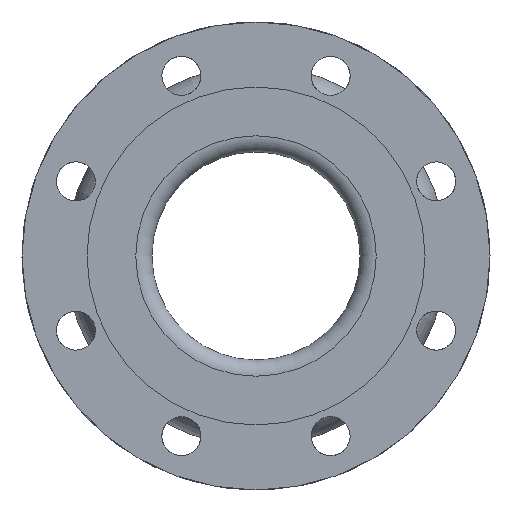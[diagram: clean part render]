
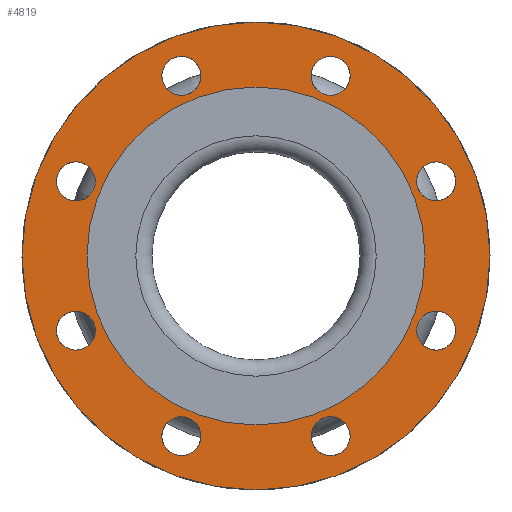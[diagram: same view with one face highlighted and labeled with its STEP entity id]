
A CAD part, left-side view. The second image highlights one B-rep face of the part: STEP entity #4819.
In plain terms, the highlighted planar face has unit normal (-1, 0, 0).
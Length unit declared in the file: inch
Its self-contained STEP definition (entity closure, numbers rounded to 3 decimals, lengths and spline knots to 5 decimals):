
#508=PLANE('',#5137);
#586=FACE_BOUND('',#1043,.T.);
#587=FACE_BOUND('',#1044,.T.);
#588=FACE_BOUND('',#1045,.T.);
#589=FACE_BOUND('',#1046,.T.);
#590=FACE_BOUND('',#1047,.T.);
#591=FACE_BOUND('',#1048,.T.);
#592=FACE_BOUND('',#1049,.T.);
#593=FACE_BOUND('',#1050,.T.);
#594=FACE_BOUND('',#1051,.T.);
#746=FACE_OUTER_BOUND('',#1042,.T.);
#1042=EDGE_LOOP('',(#3042));
#1043=EDGE_LOOP('',(#3043));
#1044=EDGE_LOOP('',(#3044));
#1045=EDGE_LOOP('',(#3045));
#1046=EDGE_LOOP('',(#3046));
#1047=EDGE_LOOP('',(#3047));
#1048=EDGE_LOOP('',(#3048));
#1049=EDGE_LOOP('',(#3049));
#1050=EDGE_LOOP('',(#3050));
#1051=EDGE_LOOP('',(#3051));
#1451=CIRCLE('',#5091,0.375);
#1453=CIRCLE('',#5094,0.375);
#1455=CIRCLE('',#5097,0.375);
#1457=CIRCLE('',#5100,0.375);
#1459=CIRCLE('',#5103,0.375);
#1461=CIRCLE('',#5106,0.375);
#1463=CIRCLE('',#5109,0.375);
#1465=CIRCLE('',#5112,0.375);
#1482=CIRCLE('',#5138,4.5);
#1483=CIRCLE('',#5139,3.25);
#1875=VERTEX_POINT('',#7431);
#1877=VERTEX_POINT('',#7436);
#1879=VERTEX_POINT('',#7441);
#1881=VERTEX_POINT('',#7446);
#1883=VERTEX_POINT('',#7451);
#1885=VERTEX_POINT('',#7456);
#1887=VERTEX_POINT('',#7461);
#1889=VERTEX_POINT('',#7466);
#1906=VERTEX_POINT('',#7509);
#1907=VERTEX_POINT('',#7511);
#2351=EDGE_CURVE('',#1875,#1875,#1451,.T.);
#2353=EDGE_CURVE('',#1877,#1877,#1453,.T.);
#2355=EDGE_CURVE('',#1879,#1879,#1455,.T.);
#2357=EDGE_CURVE('',#1881,#1881,#1457,.T.);
#2359=EDGE_CURVE('',#1883,#1883,#1459,.T.);
#2361=EDGE_CURVE('',#1885,#1885,#1461,.T.);
#2363=EDGE_CURVE('',#1887,#1887,#1463,.T.);
#2365=EDGE_CURVE('',#1889,#1889,#1465,.T.);
#2382=EDGE_CURVE('',#1906,#1906,#1482,.T.);
#2383=EDGE_CURVE('',#1907,#1907,#1483,.T.);
#3042=ORIENTED_EDGE('',*,*,#2382,.F.);
#3043=ORIENTED_EDGE('',*,*,#2351,.T.);
#3044=ORIENTED_EDGE('',*,*,#2353,.T.);
#3045=ORIENTED_EDGE('',*,*,#2355,.T.);
#3046=ORIENTED_EDGE('',*,*,#2357,.T.);
#3047=ORIENTED_EDGE('',*,*,#2359,.T.);
#3048=ORIENTED_EDGE('',*,*,#2361,.T.);
#3049=ORIENTED_EDGE('',*,*,#2363,.T.);
#3050=ORIENTED_EDGE('',*,*,#2365,.T.);
#3051=ORIENTED_EDGE('',*,*,#2383,.T.);
#4819=ADVANCED_FACE('',(#746,#586,#587,#588,#589,#590,#591,#592,#593,#594),
#508,.T.);
#5091=AXIS2_PLACEMENT_3D('',#7432,#5799,#5800);
#5094=AXIS2_PLACEMENT_3D('',#7437,#5805,#5806);
#5097=AXIS2_PLACEMENT_3D('',#7442,#5811,#5812);
#5100=AXIS2_PLACEMENT_3D('',#7447,#5817,#5818);
#5103=AXIS2_PLACEMENT_3D('',#7452,#5823,#5824);
#5106=AXIS2_PLACEMENT_3D('',#7457,#5829,#5830);
#5109=AXIS2_PLACEMENT_3D('',#7462,#5835,#5836);
#5112=AXIS2_PLACEMENT_3D('',#7467,#5841,#5842);
#5137=AXIS2_PLACEMENT_3D('',#7508,#5891,#5892);
#5138=AXIS2_PLACEMENT_3D('',#7510,#5893,#5894);
#5139=AXIS2_PLACEMENT_3D('',#7512,#5895,#5896);
#5799=DIRECTION('center_axis',(1.,0.,0.));
#5800=DIRECTION('ref_axis',(0.,-0.707,-0.707));
#5805=DIRECTION('center_axis',(1.,0.,0.));
#5806=DIRECTION('ref_axis',(0.,-1.,0.));
#5811=DIRECTION('center_axis',(1.,0.,0.));
#5812=DIRECTION('ref_axis',(0.,-0.707,0.707));
#5817=DIRECTION('center_axis',(1.,0.,0.));
#5818=DIRECTION('ref_axis',(0.,0.,1.));
#5823=DIRECTION('center_axis',(1.,0.,0.));
#5824=DIRECTION('ref_axis',(0.,0.707,0.707));
#5829=DIRECTION('center_axis',(1.,0.,0.));
#5830=DIRECTION('ref_axis',(0.,1.,0.));
#5835=DIRECTION('center_axis',(1.,0.,0.));
#5836=DIRECTION('ref_axis',(0.,0.707,-0.707));
#5841=DIRECTION('center_axis',(1.,0.,0.));
#5842=DIRECTION('ref_axis',(0.,0.,-1.));
#5891=DIRECTION('center_axis',(-1.,0.,0.));
#5892=DIRECTION('ref_axis',(0.,0.,1.));
#5893=DIRECTION('center_axis',(1.,0.,0.));
#5894=DIRECTION('ref_axis',(0.,0.,-1.));
#5895=DIRECTION('center_axis',(1.,0.,0.));
#5896=DIRECTION('ref_axis',(0.,0.,-1.));
#7431=CARTESIAN_POINT('',(-5.,1.70023,-3.19938));
#7432=CARTESIAN_POINT('Origin',(-5.,1.43506,-3.46455));
#7436=CARTESIAN_POINT('',(-5.,-1.06006,-3.46455));
#7437=CARTESIAN_POINT('Origin',(-5.,-1.43506,-3.46455));
#7441=CARTESIAN_POINT('',(-5.,-3.19938,-1.70023));
#7442=CARTESIAN_POINT('Origin',(-5.,-3.46455,-1.43506));
#7446=CARTESIAN_POINT('',(-5.,-3.46455,1.06006));
#7447=CARTESIAN_POINT('Origin',(-5.,-3.46455,1.43506));
#7451=CARTESIAN_POINT('',(-5.,-1.70023,3.19938));
#7452=CARTESIAN_POINT('Origin',(-5.,-1.43506,3.46455));
#7456=CARTESIAN_POINT('',(-5.,1.06006,3.46455));
#7457=CARTESIAN_POINT('Origin',(-5.,1.43506,3.46455));
#7461=CARTESIAN_POINT('',(-5.,3.19938,1.70023));
#7462=CARTESIAN_POINT('Origin',(-5.,3.46455,1.43506));
#7466=CARTESIAN_POINT('',(-5.,3.46455,-1.06006));
#7467=CARTESIAN_POINT('Origin',(-5.,3.46455,-1.43506));
#7508=CARTESIAN_POINT('Origin',(-5.,4.5,0.));
#7509=CARTESIAN_POINT('',(-5.,4.5,0.));
#7510=CARTESIAN_POINT('Origin',(-5.,0.,0.));
#7511=CARTESIAN_POINT('',(-5.,3.25,0.));
#7512=CARTESIAN_POINT('Origin',(-5.,0.,0.));
